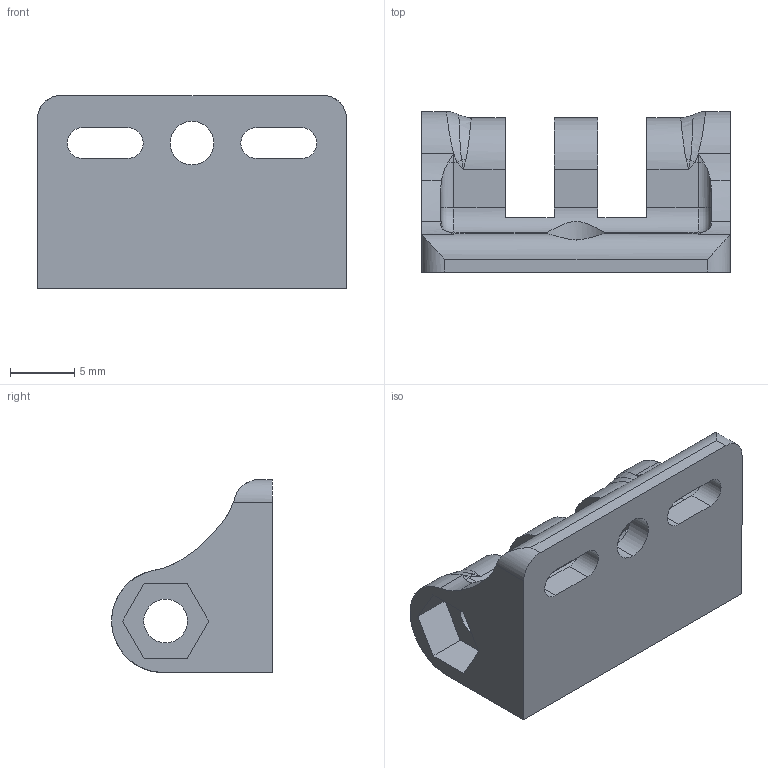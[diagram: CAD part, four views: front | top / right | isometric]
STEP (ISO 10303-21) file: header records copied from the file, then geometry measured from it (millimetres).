
FILE_DESCRIPTION (( 'STEP AP214' ), '1' );
FILE_NAME ('Base.STEP', '2016-04-20T22:08:47', ( 'Mark' ), ( 'Project-OS.org' ), 'SwSTEP 2.0', 'SolidWorks 2015', '' );
FILE_SCHEMA (( 'AUTOMOTIVE_DESIGN' ));
Length unit declared in the file: millimetre
Products named in the file (1): Base
Bounding box: 24 x 12.5 x 15 mm (x, y, z)
Volume: 1853.1 mm3; surface area: 1793 mm2
Topology: 1 solids, 1 shells, 106 faces, 290 edges, 176 vertices
Faces by surface type: cylinder 43, plane 33, bspline 24, torus 6
Entity records: 4170 total; most frequent: CARTESIAN_POINT 1630, ORIENTED_EDGE 556, DIRECTION 484, EDGE_CURVE 278, AXIS2_PLACEMENT_3D 182, VERTEX_POINT 176, LINE 120, VECTOR 120
